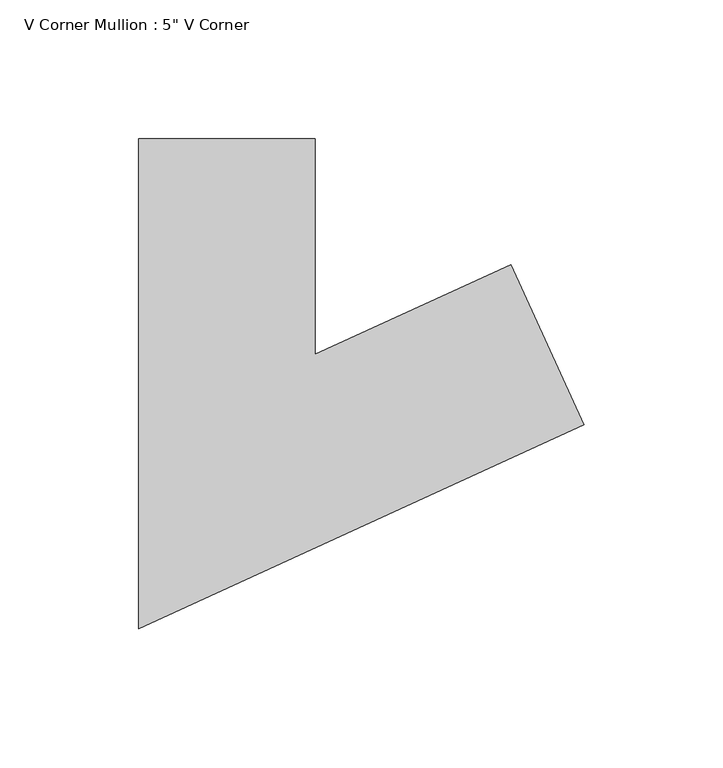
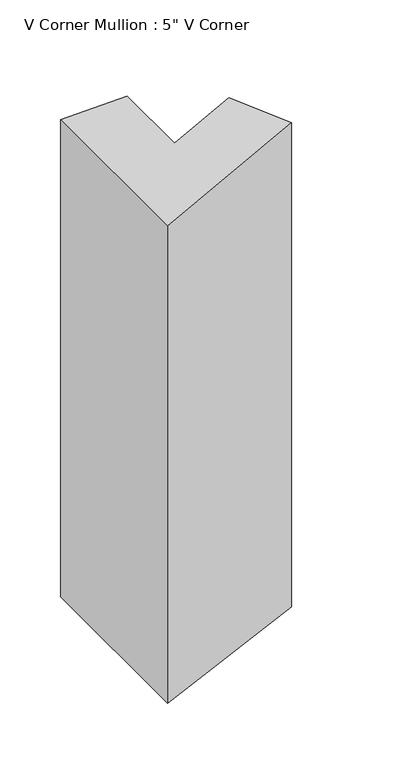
"""IFC4 building model written with IfcOpenShell, lengths in millimetres: member geometry."""

from ifc_helpers import new_model, si_unit, origin, place, context, project, spatial, faceted_brep, source, transform, mapped, element, save


def member_9b010553(model_context):
    return source(origin(), model_context, "Body", "Brep", [
        faceted_brep([(61.49523, 18.2208415, 1.2597322), (87.9205542, -39.5195451, 1.801056), (87.9205542, -39.5195451, -485.0848606), (61.49523, 18.2208415, -484.4776497), (-9.0228811, -14.0523047, -0.1848341), (-9.0228811, -14.0523047, -482.8572583), (-9.0228811, 63.5, -0.1848341), (-9.0228811, 63.5, -482.8572583), (-72.5228811, 63.5, -1.4856341), (-72.5228811, 63.5, -481.3981317), (-72.5228811, -112.9476953, -1.4856341), (-72.5228811, -112.9476953, -481.3981317)], [[[0, 1, 2, 3]], [[4, 0, 3, 5]], [[6, 4, 5, 7]], [[8, 6, 7, 9]], [[10, 8, 9, 11]], [[1, 10, 11, 2]], [[1, 0, 4, 6, 8, 10]], [[2, 11, 9, 7, 5, 3]]]),
    ])


if __name__ == "__main__":
    model = new_model("IFC4")
    model_context = context("Model", 3, world=origin())
    ifc_project = project(units=[si_unit("LENGTHUNIT", "METRE", prefix="MILLI")], contexts=[model_context])
    site = spatial("IfcSite", under=ifc_project)
    building = spatial("IfcBuilding", under=site)
    placement = place(None, origin())
    member_shape = member_9b010553(model_context)
    element("IfcMember", 1, ObjectType="V Corner Mullion : 5\" V Corner", at=placement, inside=building, context=model_context, shape_type="MappedRepresentation", body=[
        mapped(member_shape, transform((0.0, 0.0, 0.0), x_axis=(1.0, 0.0, 0.0), y_axis=(0.0, 1.0, 0.0), z_axis=(0.0, 0.0, 1.0))),
    ])
    save(model, "model.ifc")
